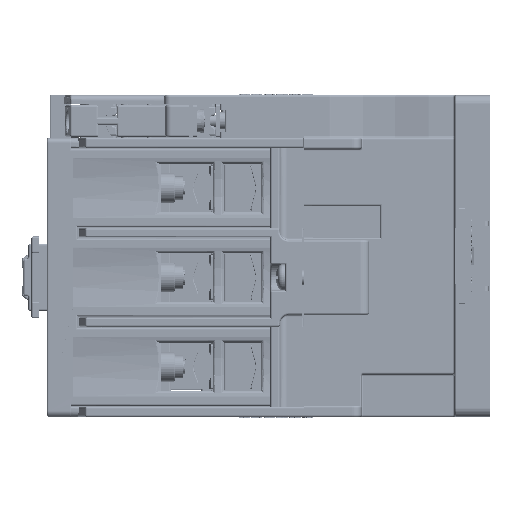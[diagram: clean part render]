
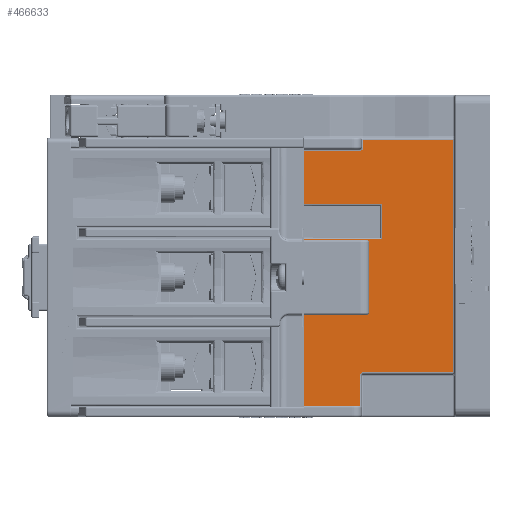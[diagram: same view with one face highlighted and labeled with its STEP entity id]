
A CAD part, front view. The second image highlights one B-rep face of the part: STEP entity #466633.
In plain terms, the highlighted planar face has unit normal (0, -1, 0).
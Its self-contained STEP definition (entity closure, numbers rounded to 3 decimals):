
#137052=DIRECTION('',(-1.,0.,0.));
#137053=VECTOR('',#137052,15.);
#137054=CARTESIAN_POINT('',(15.,-55.5,-34.5));
#137055=LINE('',#137054,#137053);
#137065=DIRECTION('',(-1.,0.,0.));
#137066=VECTOR('',#137065,17.);
#137067=CARTESIAN_POINT('',(17.,-55.5,-10.));
#137068=LINE('',#137067,#137066);
#137069=DIRECTION('',(0.,0.,-1.));
#137070=VECTOR('',#137069,19.);
#137071=CARTESIAN_POINT('',(17.5,-55.5,9.5));
#137072=LINE('',#137071,#137070);
#137073=DIRECTION('',(-1.,0.,0.));
#137074=VECTOR('',#137073,17.);
#137075=CARTESIAN_POINT('',(17.,-55.5,10.));
#137076=LINE('',#137075,#137074);
#137077=DIRECTION('',(0.,0.,1.));
#137078=VECTOR('',#137077,0.25);
#137079=CARTESIAN_POINT('',(0.,-55.5,10.));
#137080=LINE('',#137079,#137078);
#137081=DIRECTION('',(-1.,0.,0.));
#137082=VECTOR('',#137081,21.);
#137083=CARTESIAN_POINT('',(21.,-55.5,10.25));
#137084=LINE('',#137083,#137082);
#137085=DIRECTION('',(0.,0.,-1.));
#137086=VECTOR('',#137085,9.5);
#137087=CARTESIAN_POINT('',(21.,-55.5,19.75));
#137088=LINE('',#137087,#137086);
#137089=DIRECTION('',(1.,0.,0.));
#137090=VECTOR('',#137089,21.);
#137091=CARTESIAN_POINT('',(0.,-55.5,19.75));
#137092=LINE('',#137091,#137090);
#137093=DIRECTION('',(0.,0.,1.));
#137094=VECTOR('',#137093,14.25);
#137095=CARTESIAN_POINT('',(0.,-55.5,19.75));
#137096=LINE('',#137095,#137094);
#137097=DIRECTION('',(1.,0.,0.));
#137098=VECTOR('',#137097,15.);
#137099=CARTESIAN_POINT('',(0.,-55.5,34.));
#137100=LINE('',#137099,#137098);
#137101=CARTESIAN_POINT('',(15.,-55.5,35.));
#137102=DIRECTION('',(0.,1.,0.));
#137103=DIRECTION('',(1.,0.,0.));
#137104=AXIS2_PLACEMENT_3D('',#137101,#137102,#137103);
#137106=DIRECTION('',(0.,0.,1.));
#137107=VECTOR('',#137106,2.);
#137108=CARTESIAN_POINT('',(16.,-55.5,35.));
#137109=LINE('',#137108,#137107);
#137110=DIRECTION('',(1.,0.,0.));
#137111=VECTOR('',#137110,24.);
#137112=CARTESIAN_POINT('',(16.,-55.5,37.));
#137113=LINE('',#137112,#137111);
#137114=DIRECTION('',(0.,0.,1.));
#137115=VECTOR('',#137114,62.5);
#137116=CARTESIAN_POINT('',(40.,-55.5,-25.5));
#137117=LINE('',#137116,#137115);
#137118=DIRECTION('',(1.,0.,0.));
#137119=VECTOR('',#137118,24.);
#137120=CARTESIAN_POINT('',(16.,-55.5,-25.5));
#137121=LINE('',#137120,#137119);
#137122=CARTESIAN_POINT('',(16.,-55.5,-26.5));
#137123=DIRECTION('',(0.,-1.,0.));
#137124=DIRECTION('',(0.,0.,1.));
#137125=AXIS2_PLACEMENT_3D('',#137122,#137123,#137124);
#137127=DIRECTION('',(0.,0.,-1.));
#137128=VECTOR('',#137127,8.);
#137129=CARTESIAN_POINT('',(15.,-55.5,-26.5));
#137130=LINE('',#137129,#137128);
#137131=DIRECTION('',(0.,0.,1.));
#137132=VECTOR('',#137131,24.5);
#137133=CARTESIAN_POINT('',(0.,-55.5,-34.5));
#137134=LINE('',#137133,#137132);
#137186=CARTESIAN_POINT('',(17.,-55.5,9.5));
#137187=DIRECTION('',(0.,1.,0.));
#137188=DIRECTION('',(0.,0.,1.));
#137189=AXIS2_PLACEMENT_3D('',#137186,#137187,#137188);
#137208=CARTESIAN_POINT('',(17.,-55.5,-9.5));
#137209=DIRECTION('',(0.,1.,0.));
#137210=DIRECTION('',(1.,0.,0.));
#137211=AXIS2_PLACEMENT_3D('',#137208,#137209,#137210);
#187792=CARTESIAN_POINT('',(0.,-55.5,-34.5));
#187793=CARTESIAN_POINT('',(0.,-55.5,-10.));
#187794=VERTEX_POINT('',#187792);
#187795=VERTEX_POINT('',#187793);
#188400=CARTESIAN_POINT('',(15.,-55.5,34.));
#188402=VERTEX_POINT('',#188400);
#188408=CARTESIAN_POINT('',(16.,-55.5,-25.5));
#188410=VERTEX_POINT('',#188408);
#188424=CARTESIAN_POINT('',(17.,-55.5,-10.));
#188425=VERTEX_POINT('',#188424);
#188426=CARTESIAN_POINT('',(17.5,-55.5,-9.5));
#188427=VERTEX_POINT('',#188426);
#188440=CARTESIAN_POINT('',(17.5,-55.5,9.5));
#188441=VERTEX_POINT('',#188440);
#188442=CARTESIAN_POINT('',(17.,-55.5,10.));
#188443=VERTEX_POINT('',#188442);
#188458=CARTESIAN_POINT('',(0.,-55.5,10.));
#188459=VERTEX_POINT('',#188458);
#188509=CARTESIAN_POINT('',(0.,-55.5,34.));
#188510=VERTEX_POINT('',#188509);
#188527=CARTESIAN_POINT('',(16.,-55.5,35.));
#188528=CARTESIAN_POINT('',(16.,-55.5,37.));
#188529=VERTEX_POINT('',#188527);
#188530=VERTEX_POINT('',#188528);
#188549=CARTESIAN_POINT('',(40.,-55.5,37.));
#188550=VERTEX_POINT('',#188549);
#188621=CARTESIAN_POINT('',(40.,-55.5,-25.5));
#188622=VERTEX_POINT('',#188621);
#188667=CARTESIAN_POINT('',(15.,-55.5,-34.5));
#188668=VERTEX_POINT('',#188667);
#188669=CARTESIAN_POINT('',(15.,-55.5,-26.5));
#188670=VERTEX_POINT('',#188669);
#188882=CARTESIAN_POINT('',(0.,-55.5,19.75));
#188884=VERTEX_POINT('',#188882);
#188885=CARTESIAN_POINT('',(21.,-55.5,19.75));
#188886=VERTEX_POINT('',#188885);
#188891=CARTESIAN_POINT('',(21.,-55.5,10.25));
#188892=VERTEX_POINT('',#188891);
#188895=CARTESIAN_POINT('',(0.,-55.5,10.25));
#188896=VERTEX_POINT('',#188895);
#466595=CARTESIAN_POINT('',(40.5,-55.5,-26.));
#466596=DIRECTION('',(0.,-1.,0.));
#466597=DIRECTION('',(0.,0.,1.));
#466598=AXIS2_PLACEMENT_3D('',#466595,#466596,#466597);
#466599=PLANE('',#466598);
#466601=ORIENTED_EDGE('',*,*,#466600,.F.);
#466603=ORIENTED_EDGE('',*,*,#466602,.F.);
#466605=ORIENTED_EDGE('',*,*,#466604,.F.);
#466607=ORIENTED_EDGE('',*,*,#466606,.F.);
#466609=ORIENTED_EDGE('',*,*,#466608,.T.);
#466610=ORIENTED_EDGE('',*,*,#314931,.T.);
#466612=ORIENTED_EDGE('',*,*,#466611,.F.);
#466614=ORIENTED_EDGE('',*,*,#466613,.F.);
#466616=ORIENTED_EDGE('',*,*,#466615,.F.);
#466617=ORIENTED_EDGE('',*,*,#314919,.T.);
#466618=ORIENTED_EDGE('',*,*,#465755,.T.);
#466619=ORIENTED_EDGE('',*,*,#465783,.F.);
#466620=ORIENTED_EDGE('',*,*,#465808,.T.);
#466621=ORIENTED_EDGE('',*,*,#465859,.T.);
#466622=ORIENTED_EDGE('',*,*,#465911,.F.);
#466624=ORIENTED_EDGE('',*,*,#466623,.F.);
#466626=ORIENTED_EDGE('',*,*,#466625,.T.);
#466628=ORIENTED_EDGE('',*,*,#466627,.T.);
#466629=ORIENTED_EDGE('',*,*,#466574,.T.);
#466630=ORIENTED_EDGE('',*,*,#314943,.T.);
#466631=EDGE_LOOP('',(#466601,#466603,#466605,#466607,#466609,#466610,#466612,
#466614,#466616,#466617,#466618,#466619,#466620,#466621,#466622,#466624,#466626,
#466628,#466629,#466630));
#466632=FACE_OUTER_BOUND('',#466631,.F.);
#466633=ADVANCED_FACE('',(#466632),#466599,.T.);
#137105=CIRCLE('',#137104,1.);
#137126=CIRCLE('',#137125,1.);
#137190=CIRCLE('',#137189,0.5);
#137212=CIRCLE('',#137211,0.5);
#314919=EDGE_CURVE('',#188884,#188510,#137096,.T.);
#314931=EDGE_CURVE('',#188459,#188896,#137080,.T.);
#314943=EDGE_CURVE('',#187794,#187795,#137134,.T.);
#465755=EDGE_CURVE('',#188510,#188402,#137100,.T.);
#465783=EDGE_CURVE('',#188529,#188402,#137105,.T.);
#465808=EDGE_CURVE('',#188529,#188530,#137109,.T.);
#465859=EDGE_CURVE('',#188530,#188550,#137113,.T.);
#465911=EDGE_CURVE('',#188622,#188550,#137117,.T.);
#466574=EDGE_CURVE('',#188668,#187794,#137055,.T.);
#466600=EDGE_CURVE('',#188425,#187795,#137068,.T.);
#466602=EDGE_CURVE('',#188427,#188425,#137212,.T.);
#466604=EDGE_CURVE('',#188441,#188427,#137072,.T.);
#466606=EDGE_CURVE('',#188443,#188441,#137190,.T.);
#466608=EDGE_CURVE('',#188443,#188459,#137076,.T.);
#466611=EDGE_CURVE('',#188892,#188896,#137084,.T.);
#466613=EDGE_CURVE('',#188886,#188892,#137088,.T.);
#466615=EDGE_CURVE('',#188884,#188886,#137092,.T.);
#466623=EDGE_CURVE('',#188410,#188622,#137121,.T.);
#466625=EDGE_CURVE('',#188410,#188670,#137126,.T.);
#466627=EDGE_CURVE('',#188670,#188668,#137130,.T.);
